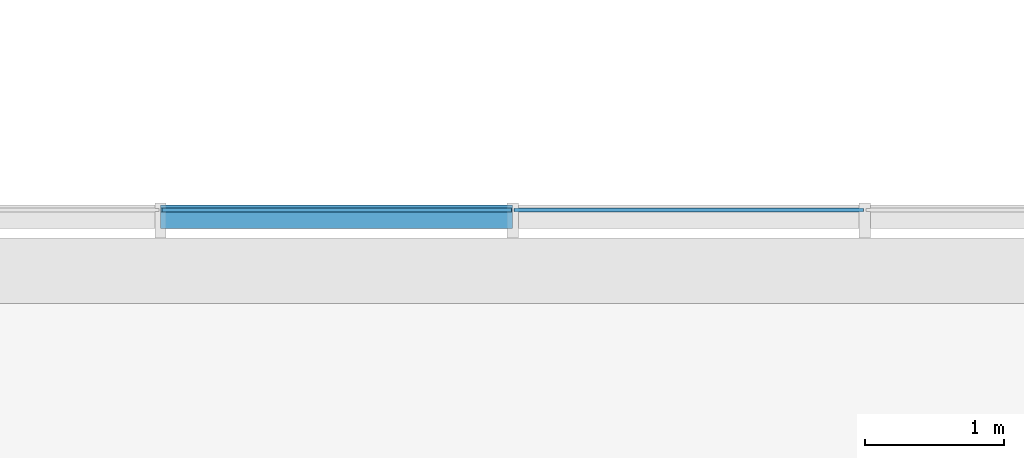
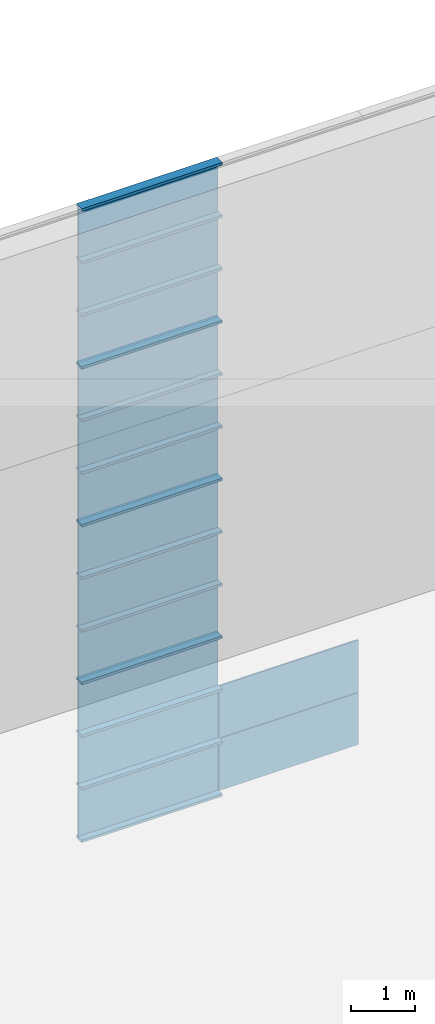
# One storey, part 60 of 105: 30 building element parts, 4 elements without a shape of their own.
"""IFC4 building model written with IfcOpenShell, lengths in millimetres."""

import ifcopenshell
import ifcopenshell.guid

model = None  # the IFC model being written
_history = None  # IfcOwnerHistory: only IFC2X3 demands one
_inside = {}  # id of a spatial element -> (the spatial element, [elements in it])
_under = {}  # id of a project, library or spatial element -> (it, [spatial elements below it])
_declared = {}  # id of a project -> (the project, [libraries it declares])
_typed = {}  # id of a type object -> (the type object, [elements of that type])
_made_of = {}  # id of a material, layer set ... -> (it, [elements and type objects made of it])


def new_model(schema):
    """Start an empty IFC model of exactly this schema.

    Asked for "IFC4X3", IfcOpenShell would pick the latest addendum, in which some entities
    have other attributes; the version numbers below select the first issue.
    IFC2X3 requires an IfcOwnerHistory on every rooted entity: one is made here for all.
    """
    global model, _history
    if schema == "IFC4X3":
        model = ifcopenshell.file(schema_version=(4, 3, 0, 0))
    else:
        model = ifcopenshell.file(schema=schema)
    _inside.clear()
    _under.clear()
    _declared.clear()
    _typed.clear()
    _made_of.clear()
    _history = None
    if model.schema == "IFC2X3":
        org = make("IfcOrganization", Name="unknown")
        user = make(
            "IfcPersonAndOrganization",
            ThePerson=make("IfcPerson", FamilyName="unknown"),
            TheOrganization=org,
        )
        app = make(
            "IfcApplication",
            ApplicationDeveloper=org,
            Version="unknown",
            ApplicationFullName="unknown",
            ApplicationIdentifier="unknown",
        )
        _history = make(
            "IfcOwnerHistory",
            OwningUser=user,
            OwningApplication=app,
            ChangeAction="ADDED",
            CreationDate=0,
        )
    return model


def make(cls, **values):
    """One entity of the class cls with the attributes given. An attribute that is None is left unset."""
    return model.create_entity(
        cls, **{name: value for name, value in values.items() if value is not None}
    )


def entity(cls, *values):
    """Any entity or typed value of the class cls, its attributes in the order of the schema. None: left unset."""
    e = model.create_entity(cls)
    for i, value in enumerate(values):
        if value is not None:
            e[i] = value
    return e


def rooted(cls, **values):
    """An entity with a GlobalId (a new one), such as an element, a storey or a relation."""
    return make(cls, GlobalId=ifcopenshell.guid.new(), OwnerHistory=_history, **values)


def si_unit(unit_type, name, prefix=None):
    """IfcSIUnit, for example si_unit("LENGTHUNIT", "METRE", prefix="MILLI")."""
    return make("IfcSIUnit", UnitType=unit_type, Prefix=prefix, Name=name)


def converted_unit(unit_type, name, factor, base, dimensions=None, offset=None):
    """IfcConversionBasedUnit, such as the inch: factor (a typed value) times the base unit."""
    return make(
        "IfcConversionBasedUnit"
        if offset is None
        else "IfcConversionBasedUnitWithOffset",
        ConversionOffset=offset,
        Dimensions=None
        if dimensions is None
        else entity("IfcDimensionalExponents", *dimensions),
        UnitType=unit_type,
        Name=name,
        ConversionFactor=make(
            "IfcMeasureWithUnit", ValueComponent=factor, UnitComponent=base
        ),
    )


def derived_unit(unit_type, elements):
    """IfcDerivedUnit: a product of units, each with its exponent."""
    return make(
        "IfcDerivedUnit",
        Elements=[
            make("IfcDerivedUnitElement", Unit=unit, Exponent=power)
            for unit, power in elements
        ],
        UnitType=unit_type,
    )


def assignment(units):
    """IfcUnitAssignment: the units of a project."""
    return None if units is None else make("IfcUnitAssignment", Units=units)


def point(xyz):
    """IfcCartesianPoint."""
    return None if xyz is None else make("IfcCartesianPoint", Coordinates=xyz)


def direction(xyz):
    """IfcDirection."""
    return None if xyz is None else make("IfcDirection", DirectionRatios=xyz)


def frame(location, z_axis=None, x_axis=None):
    """IfcAxis2Placement3D, a coordinate frame: its origin and axes. An axis left out is left unset."""
    return make(
        "IfcAxis2Placement3D",
        Location=point(location),
        Axis=direction(z_axis),
        RefDirection=direction(x_axis),
    )


def origin_with_axes():
    """The frame at (0, 0, 0) with the z axis (0, 0, 1) and the x axis (1, 0, 0) written out."""
    return frame((0.0, 0.0, 0.0), z_axis=(0.0, 0.0, 1.0), x_axis=(1.0, 0.0, 0.0))


def place(relative_to, where):
    """IfcLocalPlacement: puts the frame where relative to a parent placement (None: the world)."""
    return make(
        "IfcLocalPlacement", PlacementRelTo=relative_to, RelativePlacement=where
    )


def context(
    kind, dimensions, precision=None, world=None, true_north=None, identifier=None
):
    """IfcGeometricRepresentationContext, for example the 3D "Model" context."""
    return make(
        "IfcGeometricRepresentationContext",
        ContextIdentifier=identifier,
        ContextType=kind,
        CoordinateSpaceDimension=dimensions,
        Precision=precision,
        WorldCoordinateSystem=world,
        TrueNorth=true_north,
    )


def subcontext(parent, identifier, kind, view, scale=None):
    """IfcGeometricRepresentationSubContext, for example "Body" below "Model"."""
    return make(
        "IfcGeometricRepresentationSubContext",
        ContextIdentifier=identifier,
        ContextType=kind,
        ParentContext=parent,
        TargetScale=scale,
        TargetView=view,
    )


def project(units=None, contexts=None):
    """IfcProject with its units and contexts."""
    return rooted(
        "IfcProject",
        Name="project",
        RepresentationContexts=contexts,
        UnitsInContext=assignment(units),
    )


def spatial(cls, under=None, at=None, **own):
    """A site, building, storey or space (cls), placed at a placement, below another one or the project."""
    s = rooted(cls, ObjectPlacement=at, **own)
    if under is not None:
        _under.setdefault(under.id(), (under, []))[1].append(s)
    return s


def point_list(points):
    """IfcCartesianPointList2D or 3D."""
    cls = (
        "IfcCartesianPointList2D" if len(points[0]) == 2 else "IfcCartesianPointList3D"
    )
    return make(cls, CoordList=points)


def triangles(points, corners, closed=None, point_numbers=None):
    """IfcTriangulatedFaceSet: each triangle names its three corners, points numbered from 1."""
    return make(
        "IfcTriangulatedFaceSet",
        Coordinates=point_list(points),
        Closed=closed,
        CoordIndex=corners,
        PnIndex=point_numbers,
    )


def shape(context_of_items, identifier, shape_type, items):
    """IfcShapeRepresentation: the items that make up one representation, for example the "Body"."""
    return make(
        "IfcShapeRepresentation",
        ContextOfItems=context_of_items,
        RepresentationIdentifier=identifier,
        RepresentationType=shape_type,
        Items=items,
    )


def material(Name=None, Category=None):
    """IfcMaterial."""
    return make("IfcMaterial", Name=Name, Category=Category)


def made_of(thing, what):
    """Note that an element or type object is made of a material, layer set ...; save() writes the relation."""
    if what is not None:
        _made_of.setdefault(what.id(), (what, []))[1].append(thing)
    return thing


def element(
    cls,
    number,
    at=None,
    inside=None,
    cuts=None,
    type_object=None,
    material=None,
    context=None,
    identifier="Body",
    shape_type=None,
    held_by="IfcProductDefinitionShape",
    body=None,
    shapes=None,
    **own,
):
    """One element of the class cls, such as IfcWall. Its Tag is "e" and its number.

    at: its placement. inside: the storey or other place that contains it. cuts: it is an
    opening in that element (IfcRelVoidsElement). A single representation is given by context,
    identifier, shape_type and body (its items); several are given by shapes. held_by: the class
    of the entity that holds the representations. save() writes the other relations.
    """
    e = rooted(cls, Tag="e%d" % number, ObjectPlacement=at, **own)
    if body is not None:
        shapes = [shape(context, identifier, shape_type, body)]
    if shapes is not None:
        e.Representation = make(held_by, Representations=shapes)
    if inside is not None:
        _inside.setdefault(inside.id(), (inside, []))[1].append(e)
    if cuts is not None:
        rooted(
            "IfcRelVoidsElement", RelatingBuildingElement=cuts, RelatedOpeningElement=e
        )
    if type_object is not None:
        _typed.setdefault(type_object.id(), (type_object, []))[1].append(e)
    return made_of(e, material)


def aggregate(whole, parts):
    """IfcRelAggregates: a whole, such as a stair, and the parts it consists of."""
    return rooted("IfcRelAggregates", RelatingObject=whole, RelatedObjects=parts)


def save(model, path):
    """Write the relations noted so far, then the file.

    IfcRelAggregates (storeys below a building ...), IfcRelContainedInSpatialStructure (elements
    in a storey), IfcRelDefinesByType, IfcRelAssociatesMaterial and IfcRelDeclares: one each for
    every whole, place, type object, material and project.
    """
    for whole, parts in _under.values():
        aggregate(whole, parts)
    for where, things in _inside.values():
        rooted(
            "IfcRelContainedInSpatialStructure",
            RelatedElements=things,
            RelatingStructure=where,
        )
    for kind, things in _typed.values():
        rooted("IfcRelDefinesByType", RelatedObjects=things, RelatingType=kind)
    for what, things in _made_of.values():
        rooted("IfcRelAssociatesMaterial", RelatedObjects=things, RelatingMaterial=what)
    for by, libraries in _declared.values():
        rooted("IfcRelDeclares", RelatingContext=by, RelatedDefinitions=libraries)
    model.write(path)


model = new_model("IFC4")

# Units and contexts
model_context = context("Model", 3, precision=1e-05, world=origin_with_axes(), true_north=direction((0.0, 1.0)))
body_context = subcontext(model_context, "Body", "Model", "MODEL_VIEW")
ifc_project = project(units=[si_unit("LENGTHUNIT", "METRE", prefix="MILLI"), si_unit("AREAUNIT", "SQUARE_METRE"), si_unit("VOLUMEUNIT", "CUBIC_METRE"), converted_unit("PLANEANGLEUNIT", "DEGREE", entity("IfcLengthMeasure", 0.017453), si_unit("PLANEANGLEUNIT", "RADIAN"), dimensions=[0, 0, 0, 0, 0, 0, 0]), si_unit("SOLIDANGLEUNIT", "STERADIAN"), si_unit("MASSUNIT", "GRAM"), si_unit("TIMEUNIT", "SECOND"), si_unit("THERMODYNAMICTEMPERATUREUNIT", "DEGREE_CELSIUS"), si_unit("LUMINOUSINTENSITYUNIT", "LUMEN"), si_unit("POWERUNIT", "WATT"), derived_unit("THERMALTRANSMITTANCEUNIT", [(si_unit("POWERUNIT", "WATT"), 1), (si_unit("THERMODYNAMICTEMPERATUREUNIT", "KELVIN"), -1), (si_unit("AREAUNIT", "SQUARE_METRE"), -1)])], contexts=[model_context])

# Site, building, storey
site_placement = place(None, origin_with_axes())
site = spatial("IfcSite", under=ifc_project, at=site_placement, Name="Default Site", CompositionType="ELEMENT")
building_placement = place(site_placement, origin_with_axes())
building = spatial("IfcBuilding", under=site, at=building_placement, Name="Default Building", CompositionType="ELEMENT")
storey_placement = place(building_placement, origin_with_axes())
storey = spatial("IfcBuildingStorey", under=building, at=storey_placement, Name="OG - Story", CompositionType="ELEMENT", Elevation=0.0)

# Curtain wall, building element parts
curtain_wall_1_placement = place(storey_placement, origin_with_axes())
curtain_wall_1 = element("IfcCurtainWall", 1, at=curtain_wall_1_placement, inside=storey, Name="Fassade-004", PredefinedType="NOTDEFINED")
ifc_material_1 = material(Name="Normalglas")
building_element_part_1_placement = place(curtain_wall_1_placement, frame((33014.549222, -4389.262838, 0.0), z_axis=(0.0, 0.0, 1.0), x_axis=(1.0, 0.0, 0.0)))
building_element_part_1 = element("IfcBuildingElementPart", 2, at=building_element_part_1_placement, material=ifc_material_1, Name="Normalglas", PredefinedType="NOTDEFINED", context=body_context, shape_type="Tessellation", body=[
    triangles([(34095.263, -14.999, 995.0), (34095.263, 15.0, 995.0), (31588.947, 15.0, 995.0), (31588.947, -14.999, 995.0), (34095.263, -14.999, 5.0), (34095.263, 15.0, 5.0), (31588.947, 15.0, 5.0), (31588.947, -14.999, 5.0)], [[1, 2, 3], [1, 3, 4], [5, 6, 2], [5, 2, 1], [2, 6, 7], [2, 7, 3], [4, 3, 7], [4, 7, 8], [1, 4, 8], [1, 8, 5], [8, 7, 6], [8, 6, 5]], closed=False),
])
building_element_part_2_placement = place(curtain_wall_1_placement, frame((33014.549222, -4389.262838, 0.0), z_axis=(0.0, 0.0, 1.0), x_axis=(1.0, 0.0, 0.0)))
building_element_part_2 = element("IfcBuildingElementPart", 3, at=building_element_part_2_placement, material=ifc_material_1, Name="Normalglas", PredefinedType="NOTDEFINED", context=body_context, shape_type="Tessellation", body=[
    triangles([(36621.579, -14.999, 995.0), (36621.579, 15.0, 995.0), (34115.263, 15.0, 995.0), (34115.263, -14.999, 995.0), (36621.579, -14.999, 5.0), (36621.579, 15.0, 5.0), (34115.263, 15.0, 5.0), (34115.263, -14.999, 5.0)], [[1, 2, 3], [1, 3, 4], [5, 6, 2], [5, 2, 1], [2, 6, 7], [2, 7, 3], [4, 3, 7], [4, 7, 8], [1, 4, 8], [1, 8, 5], [8, 7, 6], [8, 6, 5]], closed=False),
])
building_element_part_3_placement = place(curtain_wall_1_placement, frame((33014.549222, -4389.262838, 0.0), z_axis=(0.0, 0.0, 1.0), x_axis=(1.0, 0.0, 0.0)))
building_element_part_3 = element("IfcBuildingElementPart", 4, at=building_element_part_3_placement, material=ifc_material_1, Name="Normalglas", PredefinedType="NOTDEFINED", context=body_context, shape_type="Tessellation", body=[
    triangles([(34095.263, -14.999, 1995.0), (34095.263, 15.0, 1995.0), (31588.947, 15.0, 1995.0), (31588.947, -14.999, 1995.0), (34095.263, -14.999, 1005.0), (34095.263, 15.0, 1005.0), (31588.947, 15.0, 1005.0), (31588.947, -14.999, 1005.0)], [[1, 2, 3], [1, 3, 4], [5, 6, 2], [5, 2, 1], [2, 6, 7], [2, 7, 3], [4, 3, 7], [4, 7, 8], [1, 4, 8], [1, 8, 5], [8, 7, 6], [8, 6, 5]], closed=False),
])
building_element_part_4_placement = place(curtain_wall_1_placement, frame((33014.549222, -4389.262838, 0.0), z_axis=(0.0, 0.0, 1.0), x_axis=(1.0, 0.0, 0.0)))
building_element_part_4 = element("IfcBuildingElementPart", 5, at=building_element_part_4_placement, material=ifc_material_1, Name="Normalglas", PredefinedType="NOTDEFINED", context=body_context, shape_type="Tessellation", body=[
    triangles([(36621.579, -14.999, 1995.0), (36621.579, 15.0, 1995.0), (34115.263, 15.0, 1995.0), (34115.263, -14.999, 1995.0), (36621.579, -14.999, 1005.0), (36621.579, 15.0, 1005.0), (34115.263, 15.0, 1005.0), (34115.263, -14.999, 1005.0)], [[1, 2, 3], [1, 3, 4], [5, 6, 2], [5, 2, 1], [2, 6, 7], [2, 7, 3], [4, 3, 7], [4, 7, 8], [1, 4, 8], [1, 8, 5], [8, 7, 6], [8, 6, 5]], closed=False),
])
building_element_part_5_placement = place(curtain_wall_1_placement, frame((33014.549222, -4389.262838, 0.0), z_axis=(0.0, 0.0, 1.0), x_axis=(1.0, 0.0, 0.0)))
building_element_part_5 = element("IfcBuildingElementPart", 6, at=building_element_part_5_placement, material=ifc_material_1, Name="Normalglas", PredefinedType="NOTDEFINED", context=body_context, shape_type="Tessellation", body=[
    triangles([(34095.263, -14.999, 2995.0), (34095.263, 15.0, 2995.0), (31588.947, 15.0, 2995.0), (31588.947, -14.999, 2995.0), (34095.263, -14.999, 2005.0), (34095.263, 15.0, 2005.0), (31588.947, 15.0, 2005.0), (31588.947, -14.999, 2005.0)], [[1, 2, 3], [1, 3, 4], [5, 6, 2], [5, 2, 1], [2, 6, 7], [2, 7, 3], [4, 3, 7], [4, 7, 8], [1, 4, 8], [1, 8, 5], [8, 7, 6], [8, 6, 5]], closed=False),
])
ifc_material_2 = material(Name="Blech")
building_element_part_6_placement = place(curtain_wall_1_placement, frame((33014.549222, -4389.262838, 0.0), z_axis=(0.0, 0.0, 1.0), x_axis=(1.0, 0.0, 0.0)))
building_element_part_6 = element("IfcBuildingElementPart", 7, at=building_element_part_6_placement, material=ifc_material_2, Name="Blech", PredefinedType="NOTDEFINED", context=body_context, shape_type="Tessellation", body=[
    triangles([(34105.263, 35.0, -24.999), (34105.263, 35.0, 25.0), (34105.263, 15.0, 25.0), (34105.263, 15.0, 5.0), (34105.263, -14.999, 5.0), (34105.263, -132.999, 25.0), (34105.263, -132.999, -24.999), (34105.263, -14.999, 25.0), (31578.947, -14.999, 5.0), (31578.947, -14.999, 25.0), (31578.947, -132.999, 25.0), (31578.947, -132.999, -24.999), (31578.947, 35.0, -24.999), (31578.947, 35.0, 25.0), (31578.947, 15.0, 25.0), (31578.947, 15.0, 5.0)], [[1, 2, 3], [1, 3, 4], [1, 4, 5], [1, 5, 6], [1, 6, 7], [8, 6, 5], [5, 9, 10], [5, 10, 8], [10, 11, 6], [10, 6, 8], [11, 12, 7], [11, 7, 6], [12, 13, 1], [12, 1, 7], [13, 14, 2], [13, 2, 1], [3, 2, 14], [3, 14, 15], [15, 16, 4], [15, 4, 3], [4, 16, 9], [4, 9, 5], [15, 16, 13], [13, 16, 9], [13, 9, 11], [11, 9, 10], [13, 11, 12], [15, 13, 14]], closed=False),
])
building_element_part_7_placement = place(curtain_wall_1_placement, frame((33014.549222, -4389.262838, 0.0), z_axis=(0.0, 0.0, 1.0), x_axis=(1.0, 0.0, 0.0)))
building_element_part_7 = element("IfcBuildingElementPart", 8, at=building_element_part_7_placement, material=ifc_material_2, Name="Blech", PredefinedType="NOTDEFINED", context=body_context, shape_type="Tessellation", body=[
    triangles([(34105.263, 35.0, 975.0), (34105.263, 15.0, 975.0), (34105.263, 35.0, 1025.0), (34105.263, 15.0, 995.0), (34105.263, 15.0, 1005.0), (34105.263, -14.999, 995.0), (34105.263, -14.999, 1005.0), (34105.263, -14.999, 1025.0), (34105.263, -14.999, 975.0), (34105.263, -132.999, 975.0), (34105.263, -132.999, 1025.0), (34105.263, 15.0, 1025.0), (31578.947, -14.999, 995.0), (31578.947, 15.0, 995.0), (31578.947, 15.0, 975.0), (31578.947, 35.0, 975.0), (31578.947, 35.0, 1025.0), (31578.947, 15.0, 1025.0), (31578.947, 15.0, 1005.0), (31578.947, -14.999, 1005.0), (31578.947, -14.999, 1025.0), (31578.947, -132.999, 1025.0), (31578.947, -132.999, 975.0), (31578.947, -14.999, 975.0)], [[1, 2, 3], [3, 2, 4], [3, 4, 5], [5, 4, 6], [5, 6, 7], [8, 9, 10], [8, 10, 11], [3, 5, 12], [6, 13, 14], [6, 14, 4], [4, 14, 15], [4, 15, 2], [15, 16, 1], [15, 1, 2], [1, 16, 17], [1, 17, 3], [18, 12, 3], [18, 3, 17], [12, 18, 19], [12, 19, 5], [7, 5, 19], [7, 19, 20], [8, 7, 20], [8, 20, 21], [8, 21, 22], [8, 22, 11], [11, 22, 23], [11, 23, 10], [9, 10, 23], [9, 23, 24], [9, 24, 13], [9, 13, 6], [17, 18, 16], [16, 18, 19], [16, 19, 14], [14, 19, 20], [14, 20, 13], [24, 21, 22], [24, 22, 23], [16, 14, 15]], closed=False),
])
building_element_part_8_placement = place(curtain_wall_1_placement, frame((33014.549222, -4389.262838, 0.0), z_axis=(0.0, 0.0, 1.0), x_axis=(1.0, 0.0, 0.0)))
building_element_part_8 = element("IfcBuildingElementPart", 9, at=building_element_part_8_placement, material=ifc_material_2, Name="Blech", PredefinedType="NOTDEFINED", context=body_context, shape_type="Tessellation", body=[
    triangles([(34105.263, 35.0, 1975.0), (34105.263, 15.0, 1975.0), (34105.263, 35.0, 2025.0), (34105.263, 15.0, 1995.0), (34105.263, 15.0, 2005.0), (34105.263, -14.999, 1995.0), (34105.263, -14.999, 2005.0), (34105.263, -14.999, 2025.0), (34105.263, -14.999, 1975.0), (34105.263, -132.999, 1975.0), (34105.263, -132.999, 2025.0), (34105.263, 15.0, 2025.0), (31578.947, -14.999, 1995.0), (31578.947, 15.0, 1995.0), (31578.947, 15.0, 1975.0), (31578.947, 35.0, 1975.0), (31578.947, 35.0, 2025.0), (31578.947, 15.0, 2025.0), (31578.947, 15.0, 2005.0), (31578.947, -14.999, 2005.0), (31578.947, -14.999, 2025.0), (31578.947, -132.999, 2025.0), (31578.947, -132.999, 1975.0), (31578.947, -14.999, 1975.0)], [[1, 2, 3], [3, 2, 4], [3, 4, 5], [5, 4, 6], [5, 6, 7], [8, 9, 10], [8, 10, 11], [3, 5, 12], [6, 13, 14], [6, 14, 4], [4, 14, 15], [4, 15, 2], [15, 16, 1], [15, 1, 2], [1, 16, 17], [1, 17, 3], [18, 12, 3], [18, 3, 17], [12, 18, 19], [12, 19, 5], [7, 5, 19], [7, 19, 20], [8, 7, 20], [8, 20, 21], [8, 21, 22], [8, 22, 11], [11, 22, 23], [11, 23, 10], [9, 10, 23], [9, 23, 24], [9, 24, 13], [9, 13, 6], [17, 18, 16], [16, 18, 19], [16, 19, 14], [14, 19, 20], [14, 20, 13], [24, 21, 22], [24, 22, 23], [16, 14, 15]], closed=False),
])
building_element_part_9_placement = place(curtain_wall_1_placement, frame((33014.549222, -4389.262838, 0.0), z_axis=(0.0, 0.0, 1.0), x_axis=(1.0, 0.0, 0.0)))
building_element_part_9 = element("IfcBuildingElementPart", 10, at=building_element_part_9_placement, material=ifc_material_2, Name="Blech", PredefinedType="NOTDEFINED", context=body_context, shape_type="Tessellation", body=[
    triangles([(34105.263, 15.0, 2975.0), (34105.263, 15.0, 2995.0), (34105.263, 35.0, 3025.0), (34105.263, -14.999, 2995.0), (34105.263, -132.999, 2975.0), (34105.263, -14.999, 2975.0), (34105.263, -132.999, 3025.0), (34105.263, 35.0, 2975.0), (31578.947, -14.999, 2995.0), (31578.947, 15.0, 2995.0), (31578.947, 15.0, 2975.0), (31578.947, 35.0, 2975.0), (31578.947, 35.0, 3025.0), (31578.947, -132.999, 3025.0), (31578.947, -132.999, 2975.0), (31578.947, -14.999, 2975.0)], [[1, 2, 3], [3, 2, 4], [3, 4, 5], [5, 4, 6], [3, 5, 7], [1, 3, 8], [2, 4, 9], [2, 9, 10], [11, 1, 2], [11, 2, 10], [1, 11, 12], [1, 12, 8], [13, 3, 8], [13, 8, 12], [14, 7, 3], [14, 3, 13], [15, 5, 7], [15, 7, 14], [16, 6, 5], [16, 5, 15], [4, 6, 16], [4, 16, 9], [13, 12, 11], [13, 11, 10], [13, 10, 9], [13, 9, 15], [13, 15, 14], [16, 15, 9]], closed=False),
])
aggregate(curtain_wall_1, [building_element_part_1, building_element_part_2, building_element_part_3, building_element_part_4, building_element_part_5, building_element_part_6, building_element_part_7, building_element_part_8, building_element_part_9])

curtain_wall_2_placement = place(storey_placement, origin_with_axes())
curtain_wall_2 = element("IfcCurtainWall", 11, at=curtain_wall_2_placement, inside=storey, Name="Fassade-004", PredefinedType="NOTDEFINED")
building_element_part_10_placement = place(curtain_wall_2_placement, frame((33014.549222, -4389.262838, 3000.0), z_axis=(0.0, 0.0, 1.0), x_axis=(1.0, 0.0, 0.0)))
building_element_part_10 = element("IfcBuildingElementPart", 12, at=building_element_part_10_placement, material=ifc_material_1, Name="Normalglas", PredefinedType="NOTDEFINED", context=body_context, shape_type="Tessellation", body=[
    triangles([(34095.263, -14.999, 995.0), (34095.263, 15.0, 995.0), (31588.947, 15.0, 995.0), (31588.947, -14.999, 995.0), (34095.263, -14.999, 5.0), (34095.263, 15.0, 5.0), (31588.947, 15.0, 5.0), (31588.947, -14.999, 5.0)], [[1, 2, 3], [1, 3, 4], [5, 6, 2], [5, 2, 1], [2, 6, 7], [2, 7, 3], [4, 3, 7], [4, 7, 8], [1, 4, 8], [1, 8, 5], [8, 7, 6], [8, 6, 5]], closed=False),
])
building_element_part_11_placement = place(curtain_wall_2_placement, frame((33014.549222, -4389.262838, 3000.0), z_axis=(0.0, 0.0, 1.0), x_axis=(1.0, 0.0, 0.0)))
building_element_part_11 = element("IfcBuildingElementPart", 13, at=building_element_part_11_placement, material=ifc_material_1, Name="Normalglas", PredefinedType="NOTDEFINED", context=body_context, shape_type="Tessellation", body=[
    triangles([(34095.263, -14.999, 1995.0), (34095.263, 15.0, 1995.0), (31588.947, 15.0, 1995.0), (31588.947, -14.999, 1995.0), (34095.263, -14.999, 1005.0), (34095.263, 15.0, 1005.0), (31588.947, 15.0, 1005.0), (31588.947, -14.999, 1005.0)], [[1, 2, 3], [1, 3, 4], [5, 6, 2], [5, 2, 1], [2, 6, 7], [2, 7, 3], [4, 3, 7], [4, 7, 8], [1, 4, 8], [1, 8, 5], [8, 7, 6], [8, 6, 5]], closed=False),
])
building_element_part_12_placement = place(curtain_wall_2_placement, frame((33014.549222, -4389.262838, 3000.0), z_axis=(0.0, 0.0, 1.0), x_axis=(1.0, 0.0, 0.0)))
building_element_part_12 = element("IfcBuildingElementPart", 14, at=building_element_part_12_placement, material=ifc_material_1, Name="Normalglas", PredefinedType="NOTDEFINED", context=body_context, shape_type="Tessellation", body=[
    triangles([(34095.263, -14.999, 2995.0), (34095.263, 15.0, 2995.0), (31588.947, 15.0, 2995.0), (31588.947, -14.999, 2995.0), (34095.263, -14.999, 2005.0), (34095.263, 15.0, 2005.0), (31588.947, 15.0, 2005.0), (31588.947, -14.999, 2005.0)], [[1, 2, 3], [1, 3, 4], [5, 6, 2], [5, 2, 1], [2, 6, 7], [2, 7, 3], [4, 3, 7], [4, 7, 8], [1, 4, 8], [1, 8, 5], [8, 7, 6], [8, 6, 5]], closed=False),
])
building_element_part_13_placement = place(curtain_wall_2_placement, frame((33014.549222, -4389.262838, 3000.0), z_axis=(0.0, 0.0, 1.0), x_axis=(1.0, 0.0, 0.0)))
building_element_part_13 = element("IfcBuildingElementPart", 15, at=building_element_part_13_placement, material=ifc_material_2, Name="Blech", PredefinedType="NOTDEFINED", context=body_context, shape_type="Tessellation", body=[
    triangles([(34105.263, 35.0, -24.999), (34105.263, 35.0, 25.0), (34105.263, 15.0, 25.0), (34105.263, 15.0, 5.0), (34105.263, -14.999, 5.0), (34105.263, -132.999, 25.0), (34105.263, -132.999, -24.999), (34105.263, -14.999, 25.0), (31578.947, -14.999, 5.0), (31578.947, -14.999, 25.0), (31578.947, -132.999, 25.0), (31578.947, -132.999, -24.999), (31578.947, 35.0, -24.999), (31578.947, 35.0, 25.0), (31578.947, 15.0, 25.0), (31578.947, 15.0, 5.0)], [[1, 2, 3], [1, 3, 4], [1, 4, 5], [1, 5, 6], [1, 6, 7], [8, 6, 5], [5, 9, 10], [5, 10, 8], [10, 11, 6], [10, 6, 8], [11, 12, 7], [11, 7, 6], [12, 13, 1], [12, 1, 7], [13, 14, 2], [13, 2, 1], [3, 2, 14], [3, 14, 15], [15, 16, 4], [15, 4, 3], [4, 16, 9], [4, 9, 5], [15, 16, 13], [13, 16, 9], [13, 9, 11], [11, 9, 10], [13, 11, 12], [15, 13, 14]], closed=False),
])
building_element_part_14_placement = place(curtain_wall_2_placement, frame((33014.549222, -4389.262838, 3000.0), z_axis=(0.0, 0.0, 1.0), x_axis=(1.0, 0.0, 0.0)))
building_element_part_14 = element("IfcBuildingElementPart", 16, at=building_element_part_14_placement, material=ifc_material_2, Name="Blech", PredefinedType="NOTDEFINED", context=body_context, shape_type="Tessellation", body=[
    triangles([(34105.263, 35.0, 975.0), (34105.263, 15.0, 975.0), (34105.263, 35.0, 1025.0), (34105.263, 15.0, 995.0), (34105.263, 15.0, 1005.0), (34105.263, -14.999, 995.0), (34105.263, -14.999, 1005.0), (34105.263, -14.999, 1025.0), (34105.263, -14.999, 975.0), (34105.263, -132.999, 975.0), (34105.263, -132.999, 1025.0), (34105.263, 15.0, 1025.0), (31578.947, -14.999, 995.0), (31578.947, 15.0, 995.0), (31578.947, 15.0, 975.0), (31578.947, 35.0, 975.0), (31578.947, 35.0, 1025.0), (31578.947, 15.0, 1025.0), (31578.947, 15.0, 1005.0), (31578.947, -14.999, 1005.0), (31578.947, -14.999, 1025.0), (31578.947, -132.999, 1025.0), (31578.947, -132.999, 975.0), (31578.947, -14.999, 975.0)], [[1, 2, 3], [3, 2, 4], [3, 4, 5], [5, 4, 6], [5, 6, 7], [8, 9, 10], [8, 10, 11], [3, 5, 12], [6, 13, 14], [6, 14, 4], [4, 14, 15], [4, 15, 2], [15, 16, 1], [15, 1, 2], [1, 16, 17], [1, 17, 3], [18, 12, 3], [18, 3, 17], [12, 18, 19], [12, 19, 5], [7, 5, 19], [7, 19, 20], [8, 7, 20], [8, 20, 21], [8, 21, 22], [8, 22, 11], [11, 22, 23], [11, 23, 10], [9, 10, 23], [9, 23, 24], [9, 24, 13], [9, 13, 6], [17, 18, 16], [16, 18, 19], [16, 19, 14], [14, 19, 20], [14, 20, 13], [24, 21, 22], [24, 22, 23], [16, 14, 15]], closed=False),
])
building_element_part_15_placement = place(curtain_wall_2_placement, frame((33014.549222, -4389.262838, 3000.0), z_axis=(0.0, 0.0, 1.0), x_axis=(1.0, 0.0, 0.0)))
building_element_part_15 = element("IfcBuildingElementPart", 17, at=building_element_part_15_placement, material=ifc_material_2, Name="Blech", PredefinedType="NOTDEFINED", context=body_context, shape_type="Tessellation", body=[
    triangles([(34105.263, 35.0, 1975.0), (34105.263, 15.0, 1975.0), (34105.263, 35.0, 2025.0), (34105.263, 15.0, 1995.0), (34105.263, 15.0, 2005.0), (34105.263, -14.999, 1995.0), (34105.263, -14.999, 2005.0), (34105.263, -14.999, 2025.0), (34105.263, -14.999, 1975.0), (34105.263, -132.999, 1975.0), (34105.263, -132.999, 2025.0), (34105.263, 15.0, 2025.0), (31578.947, -14.999, 1995.0), (31578.947, 15.0, 1995.0), (31578.947, 15.0, 1975.0), (31578.947, 35.0, 1975.0), (31578.947, 35.0, 2025.0), (31578.947, 15.0, 2025.0), (31578.947, 15.0, 2005.0), (31578.947, -14.999, 2005.0), (31578.947, -14.999, 2025.0), (31578.947, -132.999, 2025.0), (31578.947, -132.999, 1975.0), (31578.947, -14.999, 1975.0)], [[1, 2, 3], [3, 2, 4], [3, 4, 5], [5, 4, 6], [5, 6, 7], [8, 9, 10], [8, 10, 11], [3, 5, 12], [6, 13, 14], [6, 14, 4], [4, 14, 15], [4, 15, 2], [15, 16, 1], [15, 1, 2], [1, 16, 17], [1, 17, 3], [18, 12, 3], [18, 3, 17], [12, 18, 19], [12, 19, 5], [7, 5, 19], [7, 19, 20], [8, 7, 20], [8, 20, 21], [8, 21, 22], [8, 22, 11], [11, 22, 23], [11, 23, 10], [9, 10, 23], [9, 23, 24], [9, 24, 13], [9, 13, 6], [17, 18, 16], [16, 18, 19], [16, 19, 14], [14, 19, 20], [14, 20, 13], [24, 21, 22], [24, 22, 23], [16, 14, 15]], closed=False),
])
building_element_part_16_placement = place(curtain_wall_2_placement, frame((33014.549222, -4389.262838, 3000.0), z_axis=(0.0, 0.0, 1.0), x_axis=(1.0, 0.0, 0.0)))
building_element_part_16 = element("IfcBuildingElementPart", 18, at=building_element_part_16_placement, material=ifc_material_2, Name="Blech", PredefinedType="NOTDEFINED", context=body_context, shape_type="Tessellation", body=[
    triangles([(34105.263, 15.0, 2975.0), (34105.263, 15.0, 2995.0), (34105.263, 35.0, 3025.0), (34105.263, -14.999, 2995.0), (34105.263, -132.999, 2975.0), (34105.263, -14.999, 2975.0), (34105.263, -132.999, 3025.0), (34105.263, 35.0, 2975.0), (31578.947, -14.999, 2995.0), (31578.947, 15.0, 2995.0), (31578.947, 15.0, 2975.0), (31578.947, 35.0, 2975.0), (31578.947, 35.0, 3025.0), (31578.947, -132.999, 3025.0), (31578.947, -132.999, 2975.0), (31578.947, -14.999, 2975.0)], [[1, 2, 3], [3, 2, 4], [3, 4, 5], [5, 4, 6], [3, 5, 7], [1, 3, 8], [2, 4, 9], [2, 9, 10], [11, 1, 2], [11, 2, 10], [1, 11, 12], [1, 12, 8], [13, 3, 8], [13, 8, 12], [14, 7, 3], [14, 3, 13], [15, 5, 7], [15, 7, 14], [16, 6, 5], [16, 5, 15], [4, 6, 16], [4, 16, 9], [13, 12, 11], [13, 11, 10], [13, 10, 9], [13, 9, 15], [13, 15, 14], [16, 15, 9]], closed=False),
])
aggregate(curtain_wall_2, [building_element_part_10, building_element_part_11, building_element_part_12, building_element_part_13, building_element_part_14, building_element_part_15, building_element_part_16])

curtain_wall_3_placement = place(storey_placement, origin_with_axes())
curtain_wall_3 = element("IfcCurtainWall", 19, at=curtain_wall_3_placement, inside=storey, Name="Fassade-004", PredefinedType="NOTDEFINED")
building_element_part_17_placement = place(curtain_wall_3_placement, frame((33014.549222, -4389.262838, 6000.0), z_axis=(0.0, 0.0, 1.0), x_axis=(1.0, 0.0, 0.0)))
building_element_part_17 = element("IfcBuildingElementPart", 20, at=building_element_part_17_placement, material=ifc_material_1, Name="Normalglas", PredefinedType="NOTDEFINED", context=body_context, shape_type="Tessellation", body=[
    triangles([(34095.263, -14.999, 995.0), (34095.263, 15.0, 995.0), (31588.947, 15.0, 995.0), (31588.947, -14.999, 995.0), (34095.263, -14.999, 5.0), (34095.263, 15.0, 5.0), (31588.947, 15.0, 5.0), (31588.947, -14.999, 5.0)], [[1, 2, 3], [1, 3, 4], [5, 6, 2], [5, 2, 1], [2, 6, 7], [2, 7, 3], [4, 3, 7], [4, 7, 8], [1, 4, 8], [1, 8, 5], [8, 7, 6], [8, 6, 5]], closed=False),
])
building_element_part_18_placement = place(curtain_wall_3_placement, frame((33014.549222, -4389.262838, 6000.0), z_axis=(0.0, 0.0, 1.0), x_axis=(1.0, 0.0, 0.0)))
building_element_part_18 = element("IfcBuildingElementPart", 21, at=building_element_part_18_placement, material=ifc_material_1, Name="Normalglas", PredefinedType="NOTDEFINED", context=body_context, shape_type="Tessellation", body=[
    triangles([(34095.263, -14.999, 1995.0), (34095.263, 15.0, 1995.0), (31588.947, 15.0, 1995.0), (31588.947, -14.999, 1995.0), (34095.263, -14.999, 1005.0), (34095.263, 15.0, 1005.0), (31588.947, 15.0, 1005.0), (31588.947, -14.999, 1005.0)], [[1, 2, 3], [1, 3, 4], [5, 6, 2], [5, 2, 1], [2, 6, 7], [2, 7, 3], [4, 3, 7], [4, 7, 8], [1, 4, 8], [1, 8, 5], [8, 7, 6], [8, 6, 5]], closed=False),
])
building_element_part_19_placement = place(curtain_wall_3_placement, frame((33014.549222, -4389.262838, 6000.0), z_axis=(0.0, 0.0, 1.0), x_axis=(1.0, 0.0, 0.0)))
building_element_part_19 = element("IfcBuildingElementPart", 22, at=building_element_part_19_placement, material=ifc_material_1, Name="Normalglas", PredefinedType="NOTDEFINED", context=body_context, shape_type="Tessellation", body=[
    triangles([(34095.263, -14.999, 2995.0), (34095.263, 15.0, 2995.0), (31588.947, 15.0, 2995.0), (31588.947, -14.999, 2995.0), (34095.263, -14.999, 2005.0), (34095.263, 15.0, 2005.0), (31588.947, 15.0, 2005.0), (31588.947, -14.999, 2005.0)], [[1, 2, 3], [1, 3, 4], [5, 6, 2], [5, 2, 1], [2, 6, 7], [2, 7, 3], [4, 3, 7], [4, 7, 8], [1, 4, 8], [1, 8, 5], [8, 7, 6], [8, 6, 5]], closed=False),
])
building_element_part_20_placement = place(curtain_wall_3_placement, frame((33014.549222, -4389.262838, 6000.0), z_axis=(0.0, 0.0, 1.0), x_axis=(1.0, 0.0, 0.0)))
building_element_part_20 = element("IfcBuildingElementPart", 23, at=building_element_part_20_placement, material=ifc_material_2, Name="Blech", PredefinedType="NOTDEFINED", context=body_context, shape_type="Tessellation", body=[
    triangles([(34105.263, 35.0, -24.999), (34105.263, 35.0, 25.0), (34105.263, 15.0, 25.0), (34105.263, 15.0, 5.0), (34105.263, -14.999, 5.0), (34105.263, -132.999, 25.0), (34105.263, -132.999, -24.999), (34105.263, -14.999, 25.0), (31578.947, -14.999, 5.0), (31578.947, -14.999, 25.0), (31578.947, -132.999, 25.0), (31578.947, -132.999, -24.999), (31578.947, 35.0, -24.999), (31578.947, 35.0, 25.0), (31578.947, 15.0, 25.0), (31578.947, 15.0, 5.0)], [[1, 2, 3], [1, 3, 4], [1, 4, 5], [1, 5, 6], [1, 6, 7], [8, 6, 5], [5, 9, 10], [5, 10, 8], [10, 11, 6], [10, 6, 8], [11, 12, 7], [11, 7, 6], [12, 13, 1], [12, 1, 7], [13, 14, 2], [13, 2, 1], [3, 2, 14], [3, 14, 15], [15, 16, 4], [15, 4, 3], [4, 16, 9], [4, 9, 5], [15, 16, 13], [13, 16, 9], [13, 9, 11], [11, 9, 10], [13, 11, 12], [15, 13, 14]], closed=False),
])
building_element_part_21_placement = place(curtain_wall_3_placement, frame((33014.549222, -4389.262838, 6000.0), z_axis=(0.0, 0.0, 1.0), x_axis=(1.0, 0.0, 0.0)))
building_element_part_21 = element("IfcBuildingElementPart", 24, at=building_element_part_21_placement, material=ifc_material_2, Name="Blech", PredefinedType="NOTDEFINED", context=body_context, shape_type="Tessellation", body=[
    triangles([(34105.263, 35.0, 975.0), (34105.263, 15.0, 975.0), (34105.263, 35.0, 1025.0), (34105.263, 15.0, 995.0), (34105.263, 15.0, 1005.0), (34105.263, -14.999, 995.0), (34105.263, -14.999, 1005.0), (34105.263, -14.999, 1025.0), (34105.263, -14.999, 975.0), (34105.263, -132.999, 975.0), (34105.263, -132.999, 1025.0), (34105.263, 15.0, 1025.0), (31578.947, -14.999, 995.0), (31578.947, 15.0, 995.0), (31578.947, 15.0, 975.0), (31578.947, 35.0, 975.0), (31578.947, 35.0, 1025.0), (31578.947, 15.0, 1025.0), (31578.947, 15.0, 1005.0), (31578.947, -14.999, 1005.0), (31578.947, -14.999, 1025.0), (31578.947, -132.999, 1025.0), (31578.947, -132.999, 975.0), (31578.947, -14.999, 975.0)], [[1, 2, 3], [3, 2, 4], [3, 4, 5], [5, 4, 6], [5, 6, 7], [8, 9, 10], [8, 10, 11], [3, 5, 12], [6, 13, 14], [6, 14, 4], [4, 14, 15], [4, 15, 2], [15, 16, 1], [15, 1, 2], [1, 16, 17], [1, 17, 3], [18, 12, 3], [18, 3, 17], [12, 18, 19], [12, 19, 5], [7, 5, 19], [7, 19, 20], [8, 7, 20], [8, 20, 21], [8, 21, 22], [8, 22, 11], [11, 22, 23], [11, 23, 10], [9, 10, 23], [9, 23, 24], [9, 24, 13], [9, 13, 6], [17, 18, 16], [16, 18, 19], [16, 19, 14], [14, 19, 20], [14, 20, 13], [24, 21, 22], [24, 22, 23], [16, 14, 15]], closed=False),
])
building_element_part_22_placement = place(curtain_wall_3_placement, frame((33014.549222, -4389.262838, 6000.0), z_axis=(0.0, 0.0, 1.0), x_axis=(1.0, 0.0, 0.0)))
building_element_part_22 = element("IfcBuildingElementPart", 25, at=building_element_part_22_placement, material=ifc_material_2, Name="Blech", PredefinedType="NOTDEFINED", context=body_context, shape_type="Tessellation", body=[
    triangles([(34105.263, 35.0, 1975.0), (34105.263, 15.0, 1975.0), (34105.263, 35.0, 2025.0), (34105.263, 15.0, 1995.0), (34105.263, 15.0, 2005.0), (34105.263, -14.999, 1995.0), (34105.263, -14.999, 2005.0), (34105.263, -14.999, 2025.0), (34105.263, -14.999, 1975.0), (34105.263, -132.999, 1975.0), (34105.263, -132.999, 2025.0), (34105.263, 15.0, 2025.0), (31578.947, -14.999, 1995.0), (31578.947, 15.0, 1995.0), (31578.947, 15.0, 1975.0), (31578.947, 35.0, 1975.0), (31578.947, 35.0, 2025.0), (31578.947, 15.0, 2025.0), (31578.947, 15.0, 2005.0), (31578.947, -14.999, 2005.0), (31578.947, -14.999, 2025.0), (31578.947, -132.999, 2025.0), (31578.947, -132.999, 1975.0), (31578.947, -14.999, 1975.0)], [[1, 2, 3], [3, 2, 4], [3, 4, 5], [5, 4, 6], [5, 6, 7], [8, 9, 10], [8, 10, 11], [3, 5, 12], [6, 13, 14], [6, 14, 4], [4, 14, 15], [4, 15, 2], [15, 16, 1], [15, 1, 2], [1, 16, 17], [1, 17, 3], [18, 12, 3], [18, 3, 17], [12, 18, 19], [12, 19, 5], [7, 5, 19], [7, 19, 20], [8, 7, 20], [8, 20, 21], [8, 21, 22], [8, 22, 11], [11, 22, 23], [11, 23, 10], [9, 10, 23], [9, 23, 24], [9, 24, 13], [9, 13, 6], [17, 18, 16], [16, 18, 19], [16, 19, 14], [14, 19, 20], [14, 20, 13], [24, 21, 22], [24, 22, 23], [16, 14, 15]], closed=False),
])
building_element_part_23_placement = place(curtain_wall_3_placement, frame((33014.549222, -4389.262838, 6000.0), z_axis=(0.0, 0.0, 1.0), x_axis=(1.0, 0.0, 0.0)))
building_element_part_23 = element("IfcBuildingElementPart", 26, at=building_element_part_23_placement, material=ifc_material_2, Name="Blech", PredefinedType="NOTDEFINED", context=body_context, shape_type="Tessellation", body=[
    triangles([(34105.263, 15.0, 2975.0), (34105.263, 15.0, 2995.0), (34105.263, 35.0, 3025.0), (34105.263, -14.999, 2995.0), (34105.263, -132.999, 2975.0), (34105.263, -14.999, 2975.0), (34105.263, -132.999, 3025.0), (34105.263, 35.0, 2975.0), (31578.947, -14.999, 2995.0), (31578.947, 15.0, 2995.0), (31578.947, 15.0, 2975.0), (31578.947, 35.0, 2975.0), (31578.947, 35.0, 3025.0), (31578.947, -132.999, 3025.0), (31578.947, -132.999, 2975.0), (31578.947, -14.999, 2975.0)], [[1, 2, 3], [3, 2, 4], [3, 4, 5], [5, 4, 6], [3, 5, 7], [1, 3, 8], [2, 4, 9], [2, 9, 10], [11, 1, 2], [11, 2, 10], [1, 11, 12], [1, 12, 8], [13, 3, 8], [13, 8, 12], [14, 7, 3], [14, 3, 13], [15, 5, 7], [15, 7, 14], [16, 6, 5], [16, 5, 15], [4, 6, 16], [4, 16, 9], [13, 12, 11], [13, 11, 10], [13, 10, 9], [13, 9, 15], [13, 15, 14], [16, 15, 9]], closed=False),
])
aggregate(curtain_wall_3, [building_element_part_17, building_element_part_18, building_element_part_19, building_element_part_20, building_element_part_21, building_element_part_22, building_element_part_23])

curtain_wall_4_placement = place(storey_placement, origin_with_axes())
curtain_wall_4 = element("IfcCurtainWall", 27, at=curtain_wall_4_placement, inside=storey, Name="Fassade-004", PredefinedType="NOTDEFINED")
building_element_part_24_placement = place(curtain_wall_4_placement, frame((33014.549222, -4389.262838, 9000.0), z_axis=(0.0, 0.0, 1.0), x_axis=(1.0, 0.0, 0.0)))
building_element_part_24 = element("IfcBuildingElementPart", 28, at=building_element_part_24_placement, material=ifc_material_1, Name="Normalglas", PredefinedType="NOTDEFINED", context=body_context, shape_type="Tessellation", body=[
    triangles([(34095.263, -14.999, 995.0), (34095.263, 15.0, 995.0), (31588.947, 15.0, 995.0), (31588.947, -14.999, 995.0), (34095.263, -14.999, 5.0), (34095.263, 15.0, 5.0), (31588.947, 15.0, 5.0), (31588.947, -14.999, 5.0)], [[1, 2, 3], [1, 3, 4], [5, 6, 2], [5, 2, 1], [2, 6, 7], [2, 7, 3], [4, 3, 7], [4, 7, 8], [1, 4, 8], [1, 8, 5], [8, 7, 6], [8, 6, 5]], closed=False),
])
building_element_part_25_placement = place(curtain_wall_4_placement, frame((33014.549222, -4389.262838, 9000.0), z_axis=(0.0, 0.0, 1.0), x_axis=(1.0, 0.0, 0.0)))
building_element_part_25 = element("IfcBuildingElementPart", 29, at=building_element_part_25_placement, material=ifc_material_1, Name="Normalglas", PredefinedType="NOTDEFINED", context=body_context, shape_type="Tessellation", body=[
    triangles([(34095.263, -14.999, 1995.0), (34095.263, 15.0, 1995.0), (31588.947, 15.0, 1995.0), (31588.947, -14.999, 1995.0), (34095.263, -14.999, 1005.0), (34095.263, 15.0, 1005.0), (31588.947, 15.0, 1005.0), (31588.947, -14.999, 1005.0)], [[1, 2, 3], [1, 3, 4], [5, 6, 2], [5, 2, 1], [2, 6, 7], [2, 7, 3], [4, 3, 7], [4, 7, 8], [1, 4, 8], [1, 8, 5], [8, 7, 6], [8, 6, 5]], closed=False),
])
building_element_part_26_placement = place(curtain_wall_4_placement, frame((33014.549222, -4389.262838, 9000.0), z_axis=(0.0, 0.0, 1.0), x_axis=(1.0, 0.0, 0.0)))
building_element_part_26 = element("IfcBuildingElementPart", 30, at=building_element_part_26_placement, material=ifc_material_1, Name="Normalglas", PredefinedType="NOTDEFINED", context=body_context, shape_type="Tessellation", body=[
    triangles([(34095.263, -14.999, 2995.0), (34095.263, 15.0, 2995.0), (31588.947, 15.0, 2995.0), (31588.947, -14.999, 2995.0), (34095.263, -14.999, 2005.0), (34095.263, 15.0, 2005.0), (31588.947, 15.0, 2005.0), (31588.947, -14.999, 2005.0)], [[1, 2, 3], [1, 3, 4], [5, 6, 2], [5, 2, 1], [2, 6, 7], [2, 7, 3], [4, 3, 7], [4, 7, 8], [1, 4, 8], [1, 8, 5], [8, 7, 6], [8, 6, 5]], closed=False),
])
building_element_part_27_placement = place(curtain_wall_4_placement, frame((33014.549222, -4389.262838, 9000.0), z_axis=(0.0, 0.0, 1.0), x_axis=(1.0, 0.0, 0.0)))
building_element_part_27 = element("IfcBuildingElementPart", 31, at=building_element_part_27_placement, material=ifc_material_2, Name="Blech", PredefinedType="NOTDEFINED", context=body_context, shape_type="Tessellation", body=[
    triangles([(34105.263, 35.0, -24.999), (34105.263, 35.0, 25.0), (34105.263, 15.0, 25.0), (34105.263, 15.0, 5.0), (34105.263, -14.999, 5.0), (34105.263, -132.999, 25.0), (34105.263, -132.999, -24.999), (34105.263, -14.999, 25.0), (31578.947, -14.999, 5.0), (31578.947, -14.999, 25.0), (31578.947, -132.999, 25.0), (31578.947, -132.999, -24.999), (31578.947, 35.0, -24.999), (31578.947, 35.0, 25.0), (31578.947, 15.0, 25.0), (31578.947, 15.0, 5.0)], [[1, 2, 3], [1, 3, 4], [1, 4, 5], [1, 5, 6], [1, 6, 7], [8, 6, 5], [5, 9, 10], [5, 10, 8], [10, 11, 6], [10, 6, 8], [11, 12, 7], [11, 7, 6], [12, 13, 1], [12, 1, 7], [13, 14, 2], [13, 2, 1], [3, 2, 14], [3, 14, 15], [15, 16, 4], [15, 4, 3], [4, 16, 9], [4, 9, 5], [15, 16, 13], [13, 16, 9], [13, 9, 11], [11, 9, 10], [13, 11, 12], [15, 13, 14]], closed=False),
])
building_element_part_28_placement = place(curtain_wall_4_placement, frame((33014.549222, -4389.262838, 9000.0), z_axis=(0.0, 0.0, 1.0), x_axis=(1.0, 0.0, 0.0)))
building_element_part_28 = element("IfcBuildingElementPart", 32, at=building_element_part_28_placement, material=ifc_material_2, Name="Blech", PredefinedType="NOTDEFINED", context=body_context, shape_type="Tessellation", body=[
    triangles([(34105.263, 35.0, 975.0), (34105.263, 15.0, 975.0), (34105.263, 35.0, 1025.0), (34105.263, 15.0, 995.0), (34105.263, 15.0, 1005.0), (34105.263, -14.999, 995.0), (34105.263, -14.999, 1005.0), (34105.263, -14.999, 1025.0), (34105.263, -14.999, 975.0), (34105.263, -132.999, 975.0), (34105.263, -132.999, 1025.0), (34105.263, 15.0, 1025.0), (31578.947, -14.999, 995.0), (31578.947, 15.0, 995.0), (31578.947, 15.0, 975.0), (31578.947, 35.0, 975.0), (31578.947, 35.0, 1025.0), (31578.947, 15.0, 1025.0), (31578.947, 15.0, 1005.0), (31578.947, -14.999, 1005.0), (31578.947, -14.999, 1025.0), (31578.947, -132.999, 1025.0), (31578.947, -132.999, 975.0), (31578.947, -14.999, 975.0)], [[1, 2, 3], [3, 2, 4], [3, 4, 5], [5, 4, 6], [5, 6, 7], [8, 9, 10], [8, 10, 11], [3, 5, 12], [6, 13, 14], [6, 14, 4], [4, 14, 15], [4, 15, 2], [15, 16, 1], [15, 1, 2], [1, 16, 17], [1, 17, 3], [18, 12, 3], [18, 3, 17], [12, 18, 19], [12, 19, 5], [7, 5, 19], [7, 19, 20], [8, 7, 20], [8, 20, 21], [8, 21, 22], [8, 22, 11], [11, 22, 23], [11, 23, 10], [9, 10, 23], [9, 23, 24], [9, 24, 13], [9, 13, 6], [17, 18, 16], [16, 18, 19], [16, 19, 14], [14, 19, 20], [14, 20, 13], [24, 21, 22], [24, 22, 23], [16, 14, 15]], closed=False),
])
building_element_part_29_placement = place(curtain_wall_4_placement, frame((33014.549222, -4389.262838, 9000.0), z_axis=(0.0, 0.0, 1.0), x_axis=(1.0, 0.0, 0.0)))
building_element_part_29 = element("IfcBuildingElementPart", 33, at=building_element_part_29_placement, material=ifc_material_2, Name="Blech", PredefinedType="NOTDEFINED", context=body_context, shape_type="Tessellation", body=[
    triangles([(34105.263, 35.0, 1975.0), (34105.263, 15.0, 1975.0), (34105.263, 35.0, 2025.0), (34105.263, 15.0, 1995.0), (34105.263, 15.0, 2005.0), (34105.263, -14.999, 1995.0), (34105.263, -14.999, 2005.0), (34105.263, -14.999, 2025.0), (34105.263, -14.999, 1975.0), (34105.263, -132.999, 1975.0), (34105.263, -132.999, 2025.0), (34105.263, 15.0, 2025.0), (31578.947, -14.999, 1995.0), (31578.947, 15.0, 1995.0), (31578.947, 15.0, 1975.0), (31578.947, 35.0, 1975.0), (31578.947, 35.0, 2025.0), (31578.947, 15.0, 2025.0), (31578.947, 15.0, 2005.0), (31578.947, -14.999, 2005.0), (31578.947, -14.999, 2025.0), (31578.947, -132.999, 2025.0), (31578.947, -132.999, 1975.0), (31578.947, -14.999, 1975.0)], [[1, 2, 3], [3, 2, 4], [3, 4, 5], [5, 4, 6], [5, 6, 7], [8, 9, 10], [8, 10, 11], [3, 5, 12], [6, 13, 14], [6, 14, 4], [4, 14, 15], [4, 15, 2], [15, 16, 1], [15, 1, 2], [1, 16, 17], [1, 17, 3], [18, 12, 3], [18, 3, 17], [12, 18, 19], [12, 19, 5], [7, 5, 19], [7, 19, 20], [8, 7, 20], [8, 20, 21], [8, 21, 22], [8, 22, 11], [11, 22, 23], [11, 23, 10], [9, 10, 23], [9, 23, 24], [9, 24, 13], [9, 13, 6], [17, 18, 16], [16, 18, 19], [16, 19, 14], [14, 19, 20], [14, 20, 13], [24, 21, 22], [24, 22, 23], [16, 14, 15]], closed=False),
])
building_element_part_30_placement = place(curtain_wall_4_placement, frame((33014.549222, -4389.262838, 9000.0), z_axis=(0.0, 0.0, 1.0), x_axis=(1.0, 0.0, 0.0)))
building_element_part_30 = element("IfcBuildingElementPart", 34, at=building_element_part_30_placement, material=ifc_material_2, Name="Blech", PredefinedType="NOTDEFINED", context=body_context, shape_type="Tessellation", body=[
    triangles([(34105.263, 15.0, 2975.0), (34105.263, 15.0, 2995.0), (34105.263, 35.0, 3025.0), (34105.263, -14.999, 2995.0), (34105.263, -132.999, 2975.0), (34105.263, -14.999, 2975.0), (34105.263, -132.999, 3025.0), (34105.263, 35.0, 2975.0), (31578.947, -14.999, 2995.0), (31578.947, 15.0, 2995.0), (31578.947, 15.0, 2975.0), (31578.947, 35.0, 2975.0), (31578.947, 35.0, 3025.0), (31578.947, -132.999, 3025.0), (31578.947, -132.999, 2975.0), (31578.947, -14.999, 2975.0)], [[1, 2, 3], [3, 2, 4], [3, 4, 5], [5, 4, 6], [3, 5, 7], [1, 3, 8], [2, 4, 9], [2, 9, 10], [11, 1, 2], [11, 2, 10], [1, 11, 12], [1, 12, 8], [13, 3, 8], [13, 8, 12], [14, 7, 3], [14, 3, 13], [15, 5, 7], [15, 7, 14], [16, 6, 5], [16, 5, 15], [4, 6, 16], [4, 16, 9], [13, 12, 11], [13, 11, 10], [13, 10, 9], [13, 9, 15], [13, 15, 14], [16, 15, 9]], closed=False),
])
aggregate(curtain_wall_4, [building_element_part_24, building_element_part_25, building_element_part_26, building_element_part_27, building_element_part_28, building_element_part_29, building_element_part_30])

save(model, "model.ifc")
